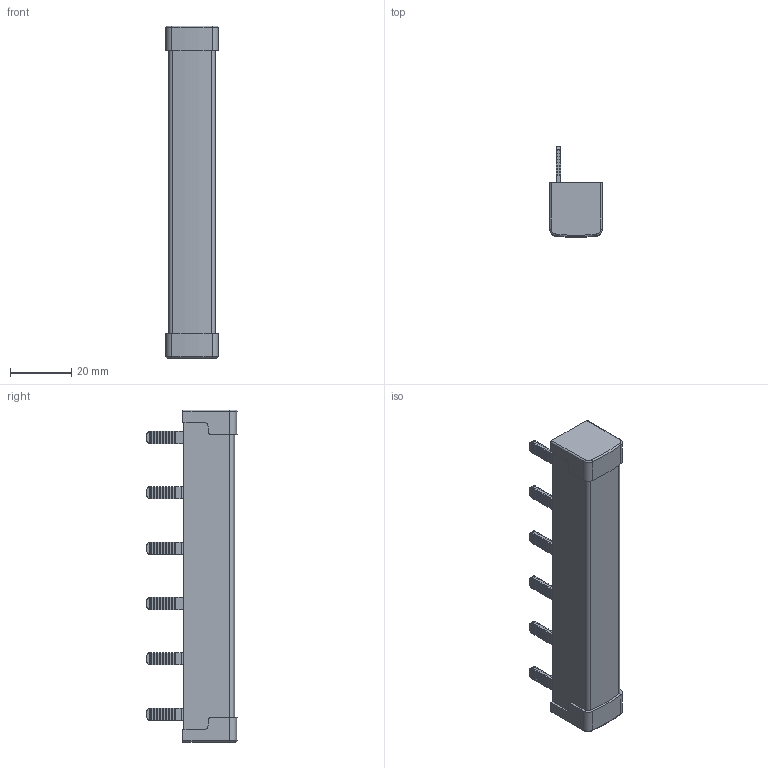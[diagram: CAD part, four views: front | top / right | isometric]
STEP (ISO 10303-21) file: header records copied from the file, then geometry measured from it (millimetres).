
FILE_DESCRIPTION(/* description */ (''),/* implementation_level */ '2;1');
FILE_NAME(/* name */ '6齿带盖子108.stp',/* time_stamp */ '2026-06-09T09:31:26+08:00',/* author */ (''),/* organization */ (''),/* preprocessor_version */ 'ST-DEVELOPER v16.7',/* originating_system */ 'SIEMENS PLM Software NX 12.0',/* authorisation */ '');
FILE_SCHEMA (('AUTOMOTIVE_DESIGN { 1 0 10303 214 3 1 1 1 }'));
Length unit declared in the file: millimetre
Products named in the file (1): Admi1C905425cbmd
Bounding box: 17.02 x 29.32 x 108 mm (x, y, z)
Volume: 15772.5 mm3; surface area: 30311.4 mm2
Topology: 6 solids, 6 shells, 931 faces, 2673 edges, 1764 vertices
Faces by surface type: plane 762, cylinder 163, torus 6
Entity records: 30150 total; most frequent: CARTESIAN_POINT 5381, ORIENTED_EDGE 5346, DIRECTION 4877, EDGE_CURVE 2673, LINE 2325, VECTOR 2325, VERTEX_POINT 1764, AXIS2_PLACEMENT_3D 1276
